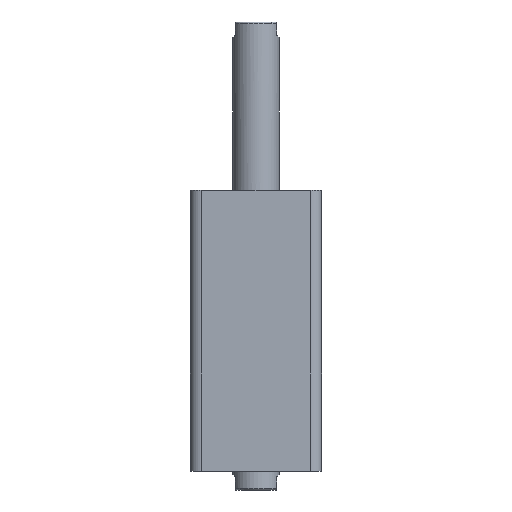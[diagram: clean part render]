
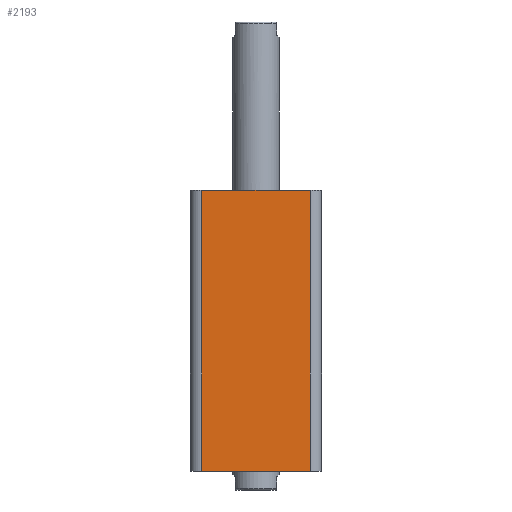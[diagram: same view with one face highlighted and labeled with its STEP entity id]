
A CAD part, front view. The second image highlights one B-rep face of the part: STEP entity #2193.
In plain terms, the highlighted planar face has unit normal (0, -1, 0).
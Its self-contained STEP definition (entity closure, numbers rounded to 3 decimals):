
#44 = VERTEX_POINT ( 'NONE', #2949 ) ;
#48 = VERTEX_POINT ( 'NONE', #2945 ) ;
#60 = VERTEX_POINT ( 'NONE', #2932 ) ;
#155 = EDGE_LOOP ( 'NONE', ( #2324, #2325, #2326, #2327 ) ) ;
#273 = VERTEX_POINT ( 'NONE', #506 ) ;
#506 = CARTESIAN_POINT ( 'NONE',  ( -29., -35., 150. ) ) ;
#891 = CARTESIAN_POINT ( 'NONE',  ( -29., -35., 150. ) ) ;
#895 = DIRECTION ( 'NONE',  ( 0., 0., -1. ) ) ;
#896 = DIRECTION ( 'NONE',  ( 1., 0., 0. ) ) ;
#908 = CARTESIAN_POINT ( 'NONE',  ( -35., -35., 150. ) ) ;
#913 = DIRECTION ( 'NONE',  ( 1., 0., 0. ) ) ;
#915 = CARTESIAN_POINT ( 'NONE',  ( -35., -35., 0. ) ) ;
#919 = CARTESIAN_POINT ( 'NONE',  ( 29., -35., 150. ) ) ;
#920 = DIRECTION ( 'NONE',  ( 0., 0., 1. ) ) ;
#1145 = CARTESIAN_POINT ( 'NONE',  ( -35., -35., 150. ) ) ;
#1147 = PLANE ( 'NONE',  #2019 ) ;
#1149 = DIRECTION ( 'NONE',  ( 0., 1., 0. ) ) ;
#1150 = DIRECTION ( 'NONE',  ( 0., 0., 1. ) ) ;
#1807 = EDGE_CURVE ( 'NONE', #273, #44, #2666, .T. ) ;
#1813 = EDGE_CURVE ( 'NONE', #273, #48, #2691, .T. ) ;
#1816 = EDGE_CURVE ( 'NONE', #44, #60, #2696, .T. ) ;
#1817 = EDGE_CURVE ( 'NONE', #60, #48, #2697, .T. ) ;
#2019 = AXIS2_PLACEMENT_3D ( 'NONE', #1145, #1149, #1150 ) ;
#2193 = ADVANCED_FACE ( 'NONE', ( #2823 ), #1147, .F. ) ;
#2324 = ORIENTED_EDGE ( 'NONE', *, *, #1813, .F. ) ;
#2325 = ORIENTED_EDGE ( 'NONE', *, *, #1807, .T. ) ;
#2326 = ORIENTED_EDGE ( 'NONE', *, *, #1816, .T. ) ;
#2327 = ORIENTED_EDGE ( 'NONE', *, *, #1817, .T. ) ;
#2666 = LINE ( 'NONE', #891, #2685 ) ;
#2685 = VECTOR ( 'NONE', #895, 1000. ) ;
#2691 = LINE ( 'NONE', #908, #2693 ) ;
#2693 = VECTOR ( 'NONE', #896, 1000. ) ;
#2696 = LINE ( 'NONE', #915, #2698 ) ;
#2697 = LINE ( 'NONE', #919, #2700 ) ;
#2698 = VECTOR ( 'NONE', #913, 1000. ) ;
#2700 = VECTOR ( 'NONE', #920, 1000. ) ;
#2823 = FACE_OUTER_BOUND ( 'NONE', #155, .T. ) ;
#2932 = CARTESIAN_POINT ( 'NONE',  ( 29., -35., 0. ) ) ;
#2945 = CARTESIAN_POINT ( 'NONE',  ( 29., -35., 150. ) ) ;
#2949 = CARTESIAN_POINT ( 'NONE',  ( -29., -35., 0. ) ) ;
